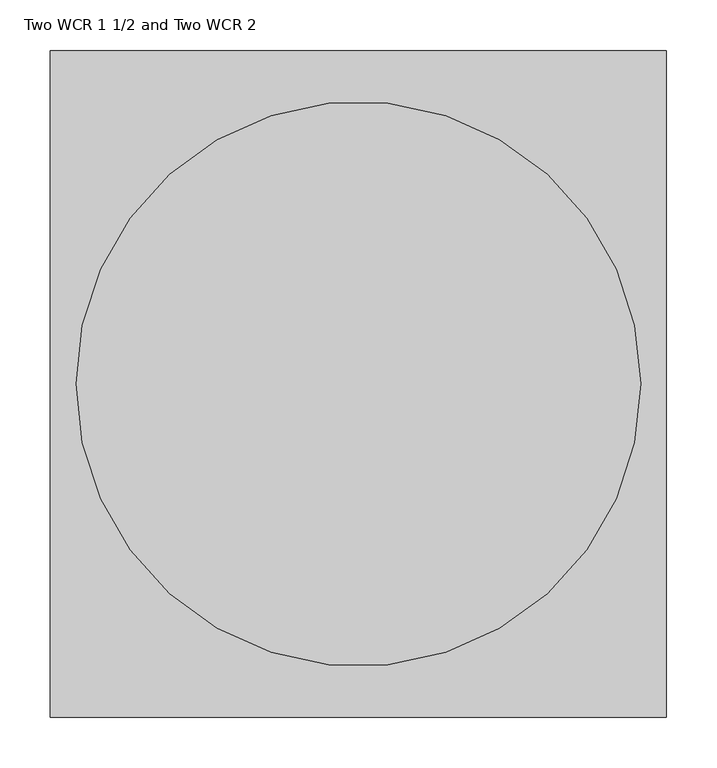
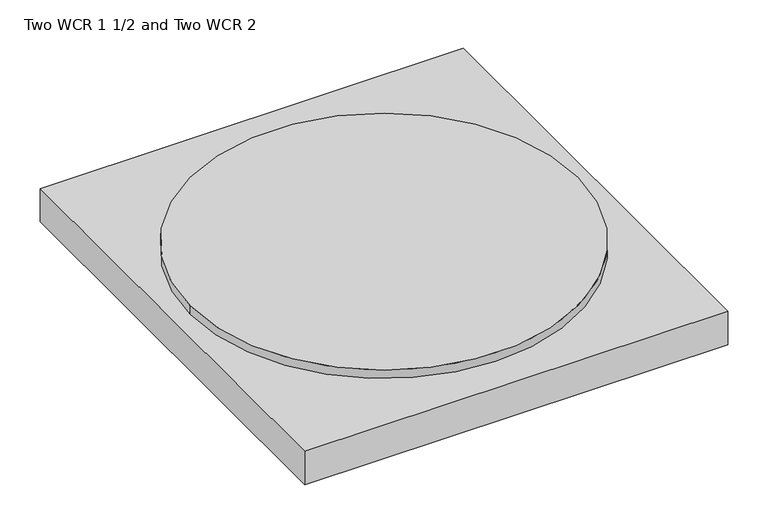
"""IFC4 building model written with IfcOpenShell, lengths in millimetres: proxy geometry, Junction_Box-Walkercell-Wiremold : Two WCR 1 1/2 and Two WCR 2."""

from ifc_helpers import new_model, si_unit, point, frame, origin, origin_2d, place, context, project, spatial, polyline, circle_curve, trimmed, segment, composite_curve, outline, extrude, source, transform, mapped, element, save


def two_wcr_1_1_2_and_two_wcr_2_f31e0469(model_context):
    return source(origin(), model_context, "Body", "SweptSolid", [
        extrude(outline(composite_curve([segment(trimmed(circle_curve(origin_2d(), 279.4), [point((-279.4, 0.0))], [point((279.4, 0.0))], False, "CARTESIAN"), True, "CONTINUOUS"), segment(trimmed(circle_curve(origin_2d(), 279.4), [point((279.4, 0.0))], [point((-279.4, 0.0))], False, "CARTESIAN"), True, "CONTINUOUS")], self_intersect=False)), frame((0.0, 0.0, 1.5748), z_axis=(0.0, 0.0, 1.0), x_axis=(1.0, 0.0, 0.0)), (0.0, 0.0, 1.0), 12.7),
        extrude(outline(polyline([(304.8, 330.2), (304.8, -330.2), (-304.8, -330.2), (-304.8, 330.2), (304.8, 330.2)])), frame((0.0, 0.0, -49.2252), z_axis=(0.0, 0.0, 1.0), x_axis=(1.0, 0.0, 0.0)), (0.0, 0.0, 1.0), 50.8),
    ])


if __name__ == "__main__":
    model = new_model("IFC4")
    model_context = context("Model", 3, world=origin())
    ifc_project = project(units=[si_unit("LENGTHUNIT", "METRE", prefix="MILLI")], contexts=[model_context])
    site = spatial("IfcSite", under=ifc_project)
    building = spatial("IfcBuilding", under=site)
    placement = place(None, origin())
    two_wcr_1_1_2_and_two_wcr_2_shape = two_wcr_1_1_2_and_two_wcr_2_f31e0469(model_context)
    element("IfcBuildingElementProxy", 1, Name="Junction_Box-Walkercell-Wiremold : Two WCR 1 1/2 and Two WCR 2", ObjectType="Junction_Box-Walkercell-Wiremold : Two WCR 1 1/2 and Two WCR 2", at=placement, inside=building, context=model_context, shape_type="MappedRepresentation", body=[
        mapped(two_wcr_1_1_2_and_two_wcr_2_shape, transform((0.0, 0.0, 0.0), x_axis=(1.0, 0.0, 0.0), y_axis=(0.0, 1.0, 0.0), z_axis=(0.0, 0.0, 1.0))),
    ])
    save(model, "model.ifc")
